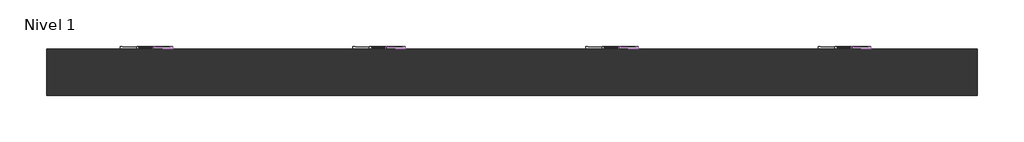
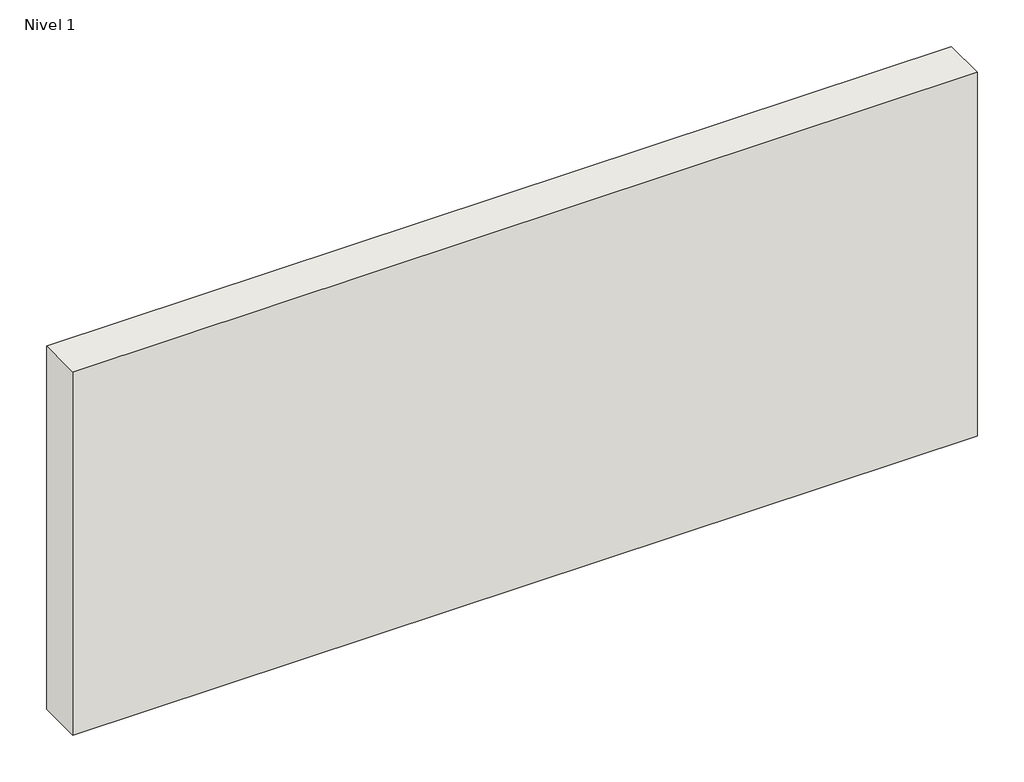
# One storey, incomplete: 24 proxies, 1 wall.
"""IFC4 building model written with IfcOpenShell, lengths in millimetres."""

from ifc_helpers import new_model, si_unit, origin, place, context, project, spatial, faceted_brep, transform, mapped, element, save
from components import electrical_fixtures_10caa466, electrical_fixtures_6fdf20cc, electrical_fixtures_f0d2c268, electrical_fixtures_3385e85f, proxy_1_elemento_e30dc943, proxy_2_elementos_08368da2

model = new_model("IFC4")

# Units and contexts
model_context = context("Model", 3, world=origin())
ifc_project = project(units=[si_unit("LENGTHUNIT", "METRE", prefix="MILLI")], contexts=[model_context])

# Site, building, storey
site = spatial("IfcSite", under=ifc_project)
building = spatial("IfcBuilding", under=site)
storey = spatial("IfcBuildingStorey", under=building, Name="Nivel 1", Elevation=0.0)

# Proxies
placement = place(None, origin())
electrical_fixtures_shape = electrical_fixtures_10caa466(model_context)
element("IfcBuildingElementProxy", 1, Name="Iris_AceroNeptuno : Marco 1 Elemento", ObjectType="Iris_AceroNeptuno : Marco 1 Elemento", at=placement, inside=storey, context=model_context, shape_type="MappedRepresentation", body=[
    mapped(electrical_fixtures_shape, transform((1774.925842, 102.7534355, 281.2406493), x_axis=(1.0, 0.0, 0.0), y_axis=(0.0, 1.0, 0.0), z_axis=(0.0, 0.0, 1.0))),
])
electrical_fixtures_2_shape = electrical_fixtures_6fdf20cc(model_context)
element("IfcBuildingElementProxy", 2, Name="Iris_AceroNeptuno : Marco 2 Elementos", ObjectType="Iris_AceroNeptuno : Marco 2 Elementos", at=placement, inside=storey, context=model_context, shape_type="MappedRepresentation", body=[
    mapped(electrical_fixtures_2_shape, transform((1774.925842, 102.7534355, -163.677972), x_axis=(1.0, 0.0, 0.0), y_axis=(0.0, 1.0, 0.0), z_axis=(0.0, 0.0, 1.0))),
])
electrical_fixtures_3_shape = electrical_fixtures_f0d2c268(model_context)
element("IfcBuildingElementProxy", 3, Name="Iris_AceroNeptuno : Marco 3 Elementos", ObjectType="Iris_AceroNeptuno : Marco 3 Elementos", at=placement, inside=storey, context=model_context, shape_type="MappedRepresentation", body=[
    mapped(electrical_fixtures_3_shape, transform((1774.925842, 102.7534355, -608.5965934), x_axis=(1.0, 0.0, 0.0), y_axis=(0.0, 1.0, 0.0), z_axis=(0.0, 0.0, 1.0))),
])
element("IfcBuildingElementProxy", 4, Name="Iris_AluminioMercurio : Marco 1 Elemento", ObjectType="Iris_AluminioMercurio : Marco 1 Elemento", at=placement, inside=storey, context=model_context, shape_type="MappedRepresentation", body=[
    mapped(electrical_fixtures_shape, transform((774.925842, 102.7534355, 281.2406493), x_axis=(1.0, 0.0, 0.0), y_axis=(0.0, 1.0, 0.0), z_axis=(0.0, 0.0, 1.0))),
])
element("IfcBuildingElementProxy", 5, Name="Iris_Chocolate : Marco 1 Elemento", ObjectType="Iris_Chocolate : Marco 1 Elemento", at=placement, inside=storey, context=model_context, shape_type="MappedRepresentation", body=[
    mapped(electrical_fixtures_shape, transform((-1225.074158, 102.7534355, 281.2406493), x_axis=(1.0, 0.0, 0.0), y_axis=(0.0, 1.0, 0.0), z_axis=(0.0, 0.0, 1.0))),
])
element("IfcBuildingElementProxy", 6, Name="Iris_Blanco : Marco 1 Elemento", ObjectType="Iris_Blanco : Marco 1 Elemento", at=placement, inside=storey, context=model_context, shape_type="MappedRepresentation", body=[
    mapped(electrical_fixtures_shape, transform((-225.074158, 102.7534355, 281.2406493), x_axis=(1.0, 0.0, 0.0), y_axis=(0.0, 1.0, 0.0), z_axis=(0.0, 0.0, 1.0))),
])
element("IfcBuildingElementProxy", 7, Name="Iris_Chocolate : Marco 3 Elementos", ObjectType="Iris_Chocolate : Marco 3 Elementos", at=placement, inside=storey, context=model_context, shape_type="MappedRepresentation", body=[
    mapped(electrical_fixtures_3_shape, transform((-1225.074158, 102.7534355, -608.5965934), x_axis=(1.0, 0.0, 0.0), y_axis=(0.0, 1.0, 0.0), z_axis=(0.0, 0.0, 1.0))),
])
element("IfcBuildingElementProxy", 8, Name="Iris_AluminioMercurio : Marco 2 Elementos", ObjectType="Iris_AluminioMercurio : Marco 2 Elementos", at=placement, inside=storey, context=model_context, shape_type="MappedRepresentation", body=[
    mapped(electrical_fixtures_2_shape, transform((774.925842, 102.7534355, -163.677972), x_axis=(1.0, 0.0, 0.0), y_axis=(0.0, 1.0, 0.0), z_axis=(0.0, 0.0, 1.0))),
])
element("IfcBuildingElementProxy", 9, Name="Iris_Blanco : Marco 2 Elementos", ObjectType="Iris_Blanco : Marco 2 Elementos", at=placement, inside=storey, context=model_context, shape_type="MappedRepresentation", body=[
    mapped(electrical_fixtures_2_shape, transform((-225.074158, 102.7534355, -163.677972), x_axis=(1.0, 0.0, 0.0), y_axis=(0.0, 1.0, 0.0), z_axis=(0.0, 0.0, 1.0))),
])
element("IfcBuildingElementProxy", 10, Name="Iris_Chocolate : Marco 2 Elementos", ObjectType="Iris_Chocolate : Marco 2 Elementos", at=placement, inside=storey, context=model_context, shape_type="MappedRepresentation", body=[
    mapped(electrical_fixtures_2_shape, transform((-1225.074158, 102.7534355, -163.677972), x_axis=(1.0, 0.0, 0.0), y_axis=(0.0, 1.0, 0.0), z_axis=(0.0, 0.0, 1.0))),
])
electrical_fixtures_4_shape = electrical_fixtures_3385e85f(model_context)
element("IfcBuildingElementProxy", 11, Name="Iris_AluminioMercurio : Marco 3 Elementos", ObjectType="Iris_AluminioMercurio : Marco 3 Elementos", at=placement, inside=storey, context=model_context, shape_type="MappedRepresentation", body=[
    mapped(electrical_fixtures_4_shape, transform((774.925842, 102.7534355, -608.5965934), x_axis=(1.0, 0.0, 0.0), y_axis=(0.0, 1.0, 0.0), z_axis=(0.0, 0.0, 1.0))),
])
element("IfcBuildingElementProxy", 12, Name="Iris_Blanco : Marco 3 Elementos", ObjectType="Iris_Blanco : Marco 3 Elementos", at=placement, inside=storey, context=model_context, shape_type="MappedRepresentation", body=[
    mapped(electrical_fixtures_3_shape, transform((-225.074158, 102.7534355, -608.5965934), x_axis=(1.0, 0.0, 0.0), y_axis=(0.0, 1.0, 0.0), z_axis=(0.0, 0.0, 1.0))),
])
proxy_1_elemento_shape = proxy_1_elemento_e30dc943(model_context)
element("IfcBuildingElementProxy", 13, Name="Iris_AceroNeptuno_DobleConmutador : 1 Elemento", ObjectType="Iris_AceroNeptuno_DobleConmutador : 1 Elemento", at=placement, inside=storey, context=model_context, shape_type="MappedRepresentation", body=[
    mapped(proxy_1_elemento_shape, transform((1900.225842, 202.7534355, 391.4034066), x_axis=(-1.0, 0.0, 0.0), y_axis=(0.0, 0.0, 1.0), z_axis=(0.0, 1.0, 0.0))),
])
element("IfcBuildingElementProxy", 14, Name="Iris_AluminioMercurio_DobleConmutador : 1 Elemento", ObjectType="Iris_AluminioMercurio_DobleConmutador : 1 Elemento", at=placement, inside=storey, context=model_context, shape_type="MappedRepresentation", body=[
    mapped(proxy_1_elemento_shape, transform((900.225842, 202.7534355, 391.4034066), x_axis=(-1.0, 0.0, 0.0), y_axis=(0.0, 0.0, 1.0), z_axis=(0.0, 1.0, 0.0))),
])
element("IfcBuildingElementProxy", 15, Name="Iris_Chocolate_DobleConmutador : 1 Elemento", ObjectType="Iris_Chocolate_DobleConmutador : 1 Elemento", at=placement, inside=storey, context=model_context, shape_type="MappedRepresentation", body=[
    mapped(proxy_1_elemento_shape, transform((-1099.774158, 202.7534355, 391.4034066), x_axis=(-1.0, 0.0, 0.0), y_axis=(0.0, 0.0, 1.0), z_axis=(0.0, 1.0, 0.0))),
])
element("IfcBuildingElementProxy", 16, Name="Iris_Blanco_DobleConmutador : 1 Elemento", ObjectType="Iris_Blanco_DobleConmutador : 1 Elemento", at=placement, inside=storey, context=model_context, shape_type="MappedRepresentation", body=[
    mapped(proxy_1_elemento_shape, transform((-99.774158, 202.7534355, 391.4034066), x_axis=(-1.0, 0.0, 0.0), y_axis=(0.0, 0.0, 1.0), z_axis=(0.0, 1.0, 0.0))),
])
proxy_2_elementos_shape = proxy_2_elementos_08368da2(model_context)
element("IfcBuildingElementProxy", 17, Name="Iris_AceroNeptuno_Conmutador : 2 Elementos", ObjectType="Iris_AceroNeptuno_Conmutador : 2 Elementos", at=placement, inside=storey, context=model_context, shape_type="MappedRepresentation", body=[
    mapped(proxy_2_elementos_shape, transform((1829.225842, 202.7534355, 391.4034066), x_axis=(-1.0, 0.0, 0.0), y_axis=(0.0, 0.0, 1.0), z_axis=(0.0, 1.0, 0.0))),
])
element("IfcBuildingElementProxy", 18, Name="Iris_AceroNeptuno_InterruptorUnipolar : 2 Elementos", ObjectType="Iris_AceroNeptuno_InterruptorUnipolar : 2 Elementos", at=placement, inside=storey, context=model_context, shape_type="MappedRepresentation", body=[
    mapped(proxy_2_elementos_shape, transform((1829.225842, 202.7534355, 836.322028), x_axis=(-1.0, 0.0, 0.0), y_axis=(0.0, 0.0, 1.0), z_axis=(0.0, 1.0, 0.0))),
])
element("IfcBuildingElementProxy", 19, Name="Iris_AluminioMercurio_Conmutador : 2 Elementos", ObjectType="Iris_AluminioMercurio_Conmutador : 2 Elementos", at=placement, inside=storey, context=model_context, shape_type="MappedRepresentation", body=[
    mapped(proxy_2_elementos_shape, transform((829.225842, 202.7534355, 391.4034066), x_axis=(-1.0, 0.0, 0.0), y_axis=(0.0, 0.0, 1.0), z_axis=(0.0, 1.0, 0.0))),
])
element("IfcBuildingElementProxy", 20, Name="Iris_AluminioMercurio_InterruptorUnipolar : 2 Elementos", ObjectType="Iris_AluminioMercurio_InterruptorUnipolar : 2 Elementos", at=placement, inside=storey, context=model_context, shape_type="MappedRepresentation", body=[
    mapped(proxy_2_elementos_shape, transform((829.225842, 202.7534355, 836.322028), x_axis=(-1.0, 0.0, 0.0), y_axis=(0.0, 0.0, 1.0), z_axis=(0.0, 1.0, 0.0))),
])
element("IfcBuildingElementProxy", 21, Name="Iris_Chocolate_Conmutador : 2 Elementos", ObjectType="Iris_Chocolate_Conmutador : 2 Elementos", at=placement, inside=storey, context=model_context, shape_type="MappedRepresentation", body=[
    mapped(proxy_2_elementos_shape, transform((-1170.774158, 202.7534355, 391.4034066), x_axis=(-1.0, 0.0, 0.0), y_axis=(0.0, 0.0, 1.0), z_axis=(0.0, 1.0, 0.0))),
])
element("IfcBuildingElementProxy", 22, Name="Iris_Chocolate_InterruptorUnipolar : 2 Elementos", ObjectType="Iris_Chocolate_InterruptorUnipolar : 2 Elementos", at=placement, inside=storey, context=model_context, shape_type="MappedRepresentation", body=[
    mapped(proxy_2_elementos_shape, transform((-1170.774158, 202.7534355, 836.322028), x_axis=(-1.0, 0.0, 0.0), y_axis=(0.0, 0.0, 1.0), z_axis=(0.0, 1.0, 0.0))),
])
element("IfcBuildingElementProxy", 23, Name="Iris_Blanco_Conmutador : 2 Elementos", ObjectType="Iris_Blanco_Conmutador : 2 Elementos", at=placement, inside=storey, context=model_context, shape_type="MappedRepresentation", body=[
    mapped(proxy_2_elementos_shape, transform((-170.774158, 202.7534355, 391.4034066), x_axis=(-1.0, 0.0, 0.0), y_axis=(0.0, 0.0, 1.0), z_axis=(0.0, 1.0, 0.0))),
])
element("IfcBuildingElementProxy", 24, Name="Iris_Blanco_InterruptorUnipolar : 2 Elementos", ObjectType="Iris_Blanco_InterruptorUnipolar : 2 Elementos", at=placement, inside=storey, context=model_context, shape_type="MappedRepresentation", body=[
    mapped(proxy_2_elementos_shape, transform((-170.774158, 202.7534355, 836.322028), x_axis=(-1.0, 0.0, 0.0), y_axis=(0.0, 0.0, 1.0), z_axis=(0.0, 1.0, 0.0))),
])

# Wall
element("IfcWall", 25, ObjectType="Por defecto - 20 cm", at=placement, inside=storey, context=model_context, shape_type="Brep", body=[
    faceted_brep([(-1599.774158, 2.7534355, 0.0), (2400.225842, 2.7534355, 0.0), (2400.225842, 2.7534355, 1700.0), (-1599.774158, 2.7534355, 1700.0), (-1599.774158, 202.7534355, 0.0), (-1599.774158, 202.7534355, 1700.0), (2400.225842, 202.7534355, 1700.0), (2400.225842, 202.7534355, 0.0), (1862.575842, 202.7534355, 1243.7406493), (1937.575842, 202.7534355, 1243.7406493), (1937.575842, 202.7534355, 1318.7406493), (1862.575842, 202.7534355, 1318.7406493), (1791.575842, 202.7534355, 798.822028), (1937.575842, 202.7534355, 798.822028), (1937.575842, 202.7534355, 873.822028), (1791.575842, 202.7534355, 873.822028), (1720.575842, 202.7534355, 353.9034066), (1937.575842, 202.7534355, 353.9034066), (1937.575842, 202.7534355, 428.9034066), (1720.575842, 202.7534355, 428.9034066), (862.575842, 202.7534355, 1243.7406493), (937.575842, 202.7534355, 1243.7406493), (937.575842, 202.7534355, 1318.7406493), (862.575842, 202.7534355, 1318.7406493), (791.575842, 202.7534355, 798.822028), (937.575842, 202.7534355, 798.822028), (937.575842, 202.7534355, 873.822028), (791.575842, 202.7534355, 873.822028), (720.575842, 202.7534355, 353.9034066), (937.575842, 202.7534355, 353.9034066), (937.575842, 202.7534355, 428.9034066), (720.575842, 202.7534355, 428.9034066), (-137.424158, 202.7534355, 1243.7406493), (-62.424158, 202.7534355, 1243.7406493), (-62.424158, 202.7534355, 1318.7406493), (-137.424158, 202.7534355, 1318.7406493), (-208.424158, 202.7534355, 798.822028), (-62.424158, 202.7534355, 798.822028), (-62.424158, 202.7534355, 873.822028), (-208.424158, 202.7534355, 873.822028), (-279.424158, 202.7534355, 353.9034066), (-62.424158, 202.7534355, 353.9034066), (-62.424158, 202.7534355, 428.9034066), (-279.424158, 202.7534355, 428.9034066), (-1137.424158, 202.7534355, 1243.7406493), (-1062.424158, 202.7534355, 1243.7406493), (-1062.424158, 202.7534355, 1318.7406493), (-1137.424158, 202.7534355, 1318.7406493), (-1208.424158, 202.7534355, 798.822028), (-1062.424158, 202.7534355, 798.822028), (-1062.424158, 202.7534355, 873.822028), (-1208.424158, 202.7534355, 873.822028), (-1279.424158, 202.7534355, 353.9034066), (-1062.424158, 202.7534355, 353.9034066), (-1062.424158, 202.7534355, 428.9034066), (-1279.424158, 202.7534355, 428.9034066), (1937.575842, 157.7534355, 1243.7406493), (1862.575842, 157.7534355, 1243.7406493), (1862.575842, 157.7534355, 1318.7406493), (1937.575842, 157.7534355, 1318.7406493), (1937.575842, 157.7534355, 798.822028), (1791.575842, 157.7534355, 798.822028), (1791.575842, 157.7534355, 873.822028), (1937.575842, 157.7534355, 873.822028), (1937.575842, 157.7534355, 353.9034066), (1720.575842, 157.7534355, 353.9034066), (1720.575842, 157.7534355, 428.9034066), (1937.575842, 157.7534355, 428.9034066), (937.575842, 157.7534355, 1243.7406493), (862.575842, 157.7534355, 1243.7406493), (862.575842, 157.7534355, 1318.7406493), (937.575842, 157.7534355, 1318.7406493), (937.575842, 157.7534355, 798.822028), (791.575842, 157.7534355, 798.822028), (791.575842, 157.7534355, 873.822028), (937.575842, 157.7534355, 873.822028), (937.575842, 157.7534355, 353.9034066), (720.575842, 157.7534355, 353.9034066), (720.575842, 157.7534355, 428.9034066), (937.575842, 157.7534355, 428.9034066), (-62.424158, 157.7534355, 1243.7406493), (-137.424158, 157.7534355, 1243.7406493), (-137.424158, 157.7534355, 1318.7406493), (-62.424158, 157.7534355, 1318.7406493), (-62.424158, 157.7534355, 798.822028), (-208.424158, 157.7534355, 798.822028), (-208.424158, 157.7534355, 873.822028), (-62.424158, 157.7534355, 873.822028), (-62.424158, 157.7534355, 353.9034066), (-279.424158, 157.7534355, 353.9034066), (-279.424158, 157.7534355, 428.9034066), (-62.424158, 157.7534355, 428.9034066), (-1062.424158, 157.7534355, 1243.7406493), (-1137.424158, 157.7534355, 1243.7406493), (-1137.424158, 157.7534355, 1318.7406493), (-1062.424158, 157.7534355, 1318.7406493), (-1062.424158, 157.7534355, 798.822028), (-1208.424158, 157.7534355, 798.822028), (-1208.424158, 157.7534355, 873.822028), (-1062.424158, 157.7534355, 873.822028), (-1062.424158, 157.7534355, 353.9034066), (-1279.424158, 157.7534355, 353.9034066), (-1279.424158, 157.7534355, 428.9034066), (-1062.424158, 157.7534355, 428.9034066)], [[[0, 1, 2, 3]], [[4, 5, 6, 7], [8, 9, 10, 11], [12, 13, 14, 15], [16, 17, 18, 19], [20, 21, 22, 23], [24, 25, 26, 27], [28, 29, 30, 31], [32, 33, 34, 35], [36, 37, 38, 39], [40, 41, 42, 43], [44, 45, 46, 47], [48, 49, 50, 51], [52, 53, 54, 55]], [[1, 0, 4, 7]], [[2, 1, 7, 6]], [[3, 2, 6, 5]], [[0, 3, 5, 4]], [[56, 57, 58, 59]], [[57, 56, 9, 8]], [[58, 57, 8, 11]], [[59, 58, 11, 10]], [[56, 59, 10, 9]], [[60, 61, 62, 63]], [[61, 60, 13, 12]], [[62, 61, 12, 15]], [[63, 62, 15, 14]], [[60, 63, 14, 13]], [[64, 65, 66, 67]], [[65, 64, 17, 16]], [[66, 65, 16, 19]], [[67, 66, 19, 18]], [[64, 67, 18, 17]], [[68, 69, 70, 71]], [[69, 68, 21, 20]], [[70, 69, 20, 23]], [[71, 70, 23, 22]], [[68, 71, 22, 21]], [[72, 73, 74, 75]], [[73, 72, 25, 24]], [[74, 73, 24, 27]], [[75, 74, 27, 26]], [[72, 75, 26, 25]], [[76, 77, 78, 79]], [[77, 76, 29, 28]], [[78, 77, 28, 31]], [[79, 78, 31, 30]], [[76, 79, 30, 29]], [[80, 81, 82, 83]], [[81, 80, 33, 32]], [[82, 81, 32, 35]], [[83, 82, 35, 34]], [[80, 83, 34, 33]], [[84, 85, 86, 87]], [[85, 84, 37, 36]], [[86, 85, 36, 39]], [[87, 86, 39, 38]], [[84, 87, 38, 37]], [[88, 89, 90, 91]], [[89, 88, 41, 40]], [[90, 89, 40, 43]], [[91, 90, 43, 42]], [[88, 91, 42, 41]], [[92, 93, 94, 95]], [[93, 92, 45, 44]], [[94, 93, 44, 47]], [[95, 94, 47, 46]], [[92, 95, 46, 45]], [[96, 97, 98, 99]], [[97, 96, 49, 48]], [[98, 97, 48, 51]], [[99, 98, 51, 50]], [[96, 99, 50, 49]], [[100, 101, 102, 103]], [[101, 100, 53, 52]], [[102, 101, 52, 55]], [[103, 102, 55, 54]], [[100, 103, 54, 53]]]),
])

save(model, "model.ifc")
